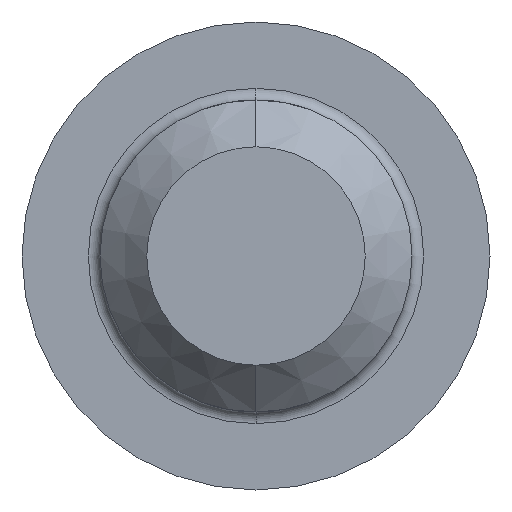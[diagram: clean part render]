
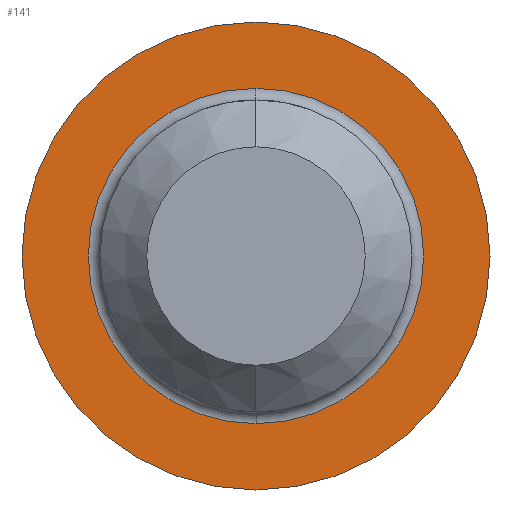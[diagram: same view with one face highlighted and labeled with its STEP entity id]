
A CAD part, left-side view. The second image highlights one B-rep face of the part: STEP entity #141.
In plain terms, the highlighted planar face has unit normal (-1, 0, 0).
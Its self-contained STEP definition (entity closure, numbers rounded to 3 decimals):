
#9 = DIRECTION ( 'NONE',  ( 0., 0., -1. ) ) ;
#54 = VERTEX_POINT ( 'NONE', #323 ) ;
#56 = VERTEX_POINT ( 'NONE', #345 ) ;
#73 = VERTEX_POINT ( 'NONE', #363 ) ;
#87 = VERTEX_POINT ( 'NONE', #298 ) ;
#91 = EDGE_CURVE ( 'NONE', #73, #87, #301, .T. ) ;
#113 = ORIENTED_EDGE ( 'NONE', *, *, #140, .T. ) ;
#114 = EDGE_LOOP ( 'NONE', ( #116, #113 ) ) ;
#116 = ORIENTED_EDGE ( 'NONE', *, *, #188, .T. ) ;
#134 = ORIENTED_EDGE ( 'NONE', *, *, #91, .T. ) ;
#138 = ORIENTED_EDGE ( 'NONE', *, *, #139, .T. ) ;
#139 = EDGE_CURVE ( 'NONE', #87, #73, #184, .T. ) ;
#140 = EDGE_CURVE ( 'NONE', #56, #54, #475, .T. ) ;
#141 = ADVANCED_FACE ( 'NONE', ( #471, #409 ), #386, .F. ) ;
#142 = EDGE_LOOP ( 'NONE', ( #138, #134 ) ) ;
#149 = DIRECTION ( 'NONE',  ( 1., 0., 0. ) ) ;
#150 = CARTESIAN_POINT ( 'NONE',  ( 0., 0., 0. ) ) ;
#179 = AXIS2_PLACEMENT_3D ( 'NONE', #150, #149, #9 ) ;
#184 = CIRCLE ( 'NONE', #179, 4.3 ) ;
#188 = EDGE_CURVE ( 'NONE', #54, #56, #483, .T. ) ;
#218 = DIRECTION ( 'NONE',  ( 0., 0., -1. ) ) ;
#222 = DIRECTION ( 'NONE',  ( 1., 0., 0. ) ) ;
#256 = CARTESIAN_POINT ( 'NONE',  ( 0., 0., 0. ) ) ;
#259 = AXIS2_PLACEMENT_3D ( 'NONE', #256, #222, #218 ) ;
#298 = CARTESIAN_POINT ( 'NONE',  ( 0., 0., -4.3 ) ) ;
#301 = CIRCLE ( 'NONE', #259, 4.3 ) ;
#323 = CARTESIAN_POINT ( 'NONE',  ( 0., 0., 6. ) ) ;
#345 = CARTESIAN_POINT ( 'NONE',  ( 0., 0., -6. ) ) ;
#363 = CARTESIAN_POINT ( 'NONE',  ( 0., 0., 4.3 ) ) ;
#386 = PLANE ( 'NONE',  #392 ) ;
#388 = CARTESIAN_POINT ( 'NONE',  ( 0., 6., 0. ) ) ;
#389 = DIRECTION ( 'NONE',  ( -1., 0., 0. ) ) ;
#390 = AXIS2_PLACEMENT_3D ( 'NONE', #456, #389, #472 ) ;
#392 = AXIS2_PLACEMENT_3D ( 'NONE', #388, #481, #474 ) ;
#409 = FACE_OUTER_BOUND ( 'NONE', #114, .T. ) ;
#456 = CARTESIAN_POINT ( 'NONE',  ( 0., 0., 0. ) ) ;
#471 = FACE_BOUND ( 'NONE', #142, .T. ) ;
#472 = DIRECTION ( 'NONE',  ( 0., 0., 1. ) ) ;
#474 = DIRECTION ( 'NONE',  ( 0., 0., -1. ) ) ;
#475 = CIRCLE ( 'NONE', #390, 6. ) ;
#481 = DIRECTION ( 'NONE',  ( 1., 0., 0. ) ) ;
#483 = CIRCLE ( 'NONE', #494, 6. ) ;
#494 = AXIS2_PLACEMENT_3D ( 'NONE', #510, #516, #515 ) ;
#510 = CARTESIAN_POINT ( 'NONE',  ( 0., 0., 0. ) ) ;
#515 = DIRECTION ( 'NONE',  ( 0., 0., 1. ) ) ;
#516 = DIRECTION ( 'NONE',  ( -1., 0., 0. ) ) ;
